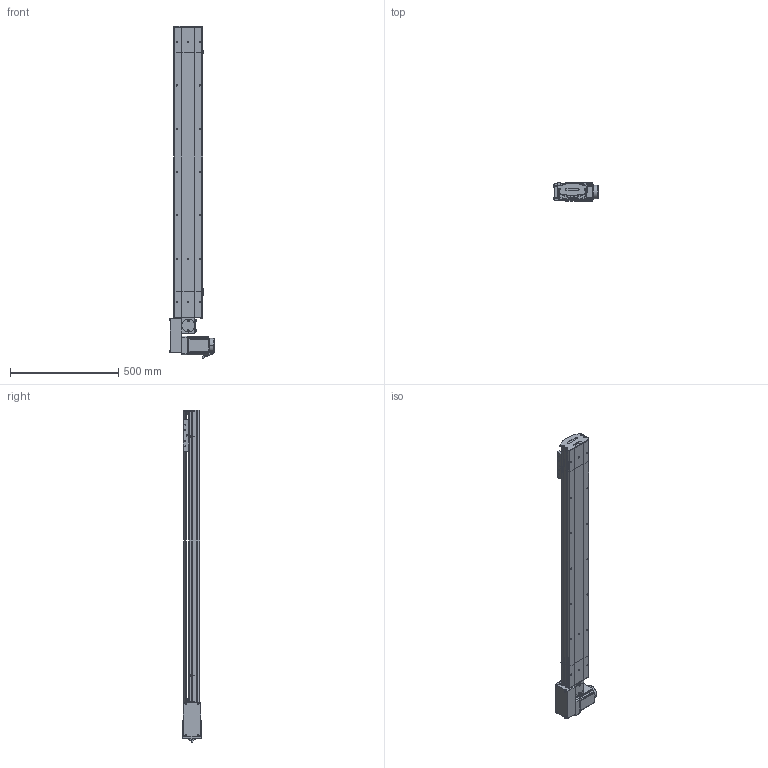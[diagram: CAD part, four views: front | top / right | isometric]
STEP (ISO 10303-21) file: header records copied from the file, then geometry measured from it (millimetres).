
FILE_DESCRIPTION (( 'STEP AP214' ), '1' );
FILE_NAME ('D14 TBH RH S1100.STEP', '2010-06-29T13:51:09', ( 'Conseil Régional Haute-Normandie' ), ( 'Conseil Régional Haute-Normandie' ), 'SwSTEP 2.0', 'SolidWorks 2010', '' );
FILE_SCHEMA (( 'AUTOMOTIVE_DESIGN' ));
Length unit declared in the file: millimetre
Products named in the file (39): vis M5 L5_Default; poulie head_Default; couroie 2_Default; Cache_Default; corps 90BLDC100A-640; Cache arbre_Default; renvoi RH_Default; Vis M5 L16-2_Default; couvercle D14 head_Default; Plaque racord D14_Default; Conecteur_Default; avant 90BLDC100A-640; Moteur motionking 90BLDC100A-640; Conecteur2_Default; codeur 90BLDC100-640; Chariot D14; chariot D14B_Default; Cvis M5 L70_Default; vis M5 L12_Default; guide D14; D14 TBH RH S1100; corpl 1100_Default; vis M5 L16_Default; vis M5 L8 90°_Default; Rail + couroie D14 Course 1100 ; tete d''axe haut D14; plaque de  bout head D14 RH_Default; corp head D14_Default; D14 TB H RH_Default; plaque de  bout tail D14_Default; Arbre+rail head D14; corpl tail D14_Default; Couroie_Default; poulie tail_Default; couvercle D14 course L1100_Default; D14 couroie L1100_Default; Tail D14B_Default; couvercle D14_Default; Arbre+rail tail D14
Assembly tree (68 placements, depth 4):
  D14 TBH RH S1100
    chariot D14B_Default
      guide D14  x2
      vis M5 L12_Default  x4
      Chariot D14
    D14 couroie L1100_Default
      Rail + couroie D14 Course 1100 
      corpl 1100_Default
      couvercle D14 course L1100_Default
    Tail D14B_Default
      vis M5 L12_Default  x4
      tete d''axe haut D14
      corpl tail D14_Default
      vis M5 L16_Default  x2
      couvercle D14_Default
      plaque de  bout tail D14_Default
      poulie tail_Default
      Couroie_Default
      Arbre+rail tail D14
      vis M5 L8 90°_Default  x2
    D14 TB H RH_Default
      Vis M5 L16-2_Default  x4
      Cvis M5 L70_Default  x4
      corp head D14_Default
      vis M5 L12_Default  x12
      vis M5 L5_Default  x2
      Cache_Default  x2
      poulie head_Default
      renvoi RH_Default
      Arbre+rail head D14
      couroie 2_Default
      Cache arbre_Default
      Plaque racord D14_Default
      Moteur motionking 90BLDC100A-640
        corps 90BLDC100A-640
        Conecteur_Default
        codeur 90BLDC100-640
        avant 90BLDC100A-640
        Conecteur2_Default
      plaque de  bout head D14 RH_Default
      couvercle D14 head_Default
Bounding box: 207.2 x 85.9 x 1532.45 mm (x, y, z)
Volume: 6394213.3 mm3; surface area: 2081193.3 mm2
Topology: 92 solids, 92 shells, 2613 faces, 6395 edges, 4122 vertices
Faces by surface type: plane 1585, cylinder 715, bspline 136, torus 89, cone 84, sphere 4
Entity records: 78704 total; most frequent: CARTESIAN_POINT 23469, ORIENTED_EDGE 9650, DIRECTION 9404, EDGE_CURVE 4825, LINE 3262, VECTOR 3262, VERTEX_POINT 3172, AXIS2_PLACEMENT_3D 3071
